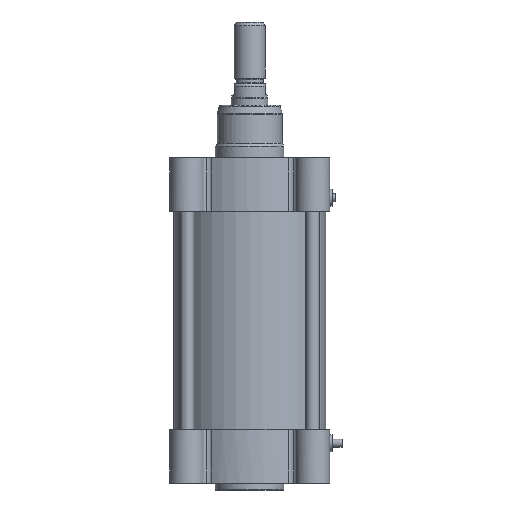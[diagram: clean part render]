
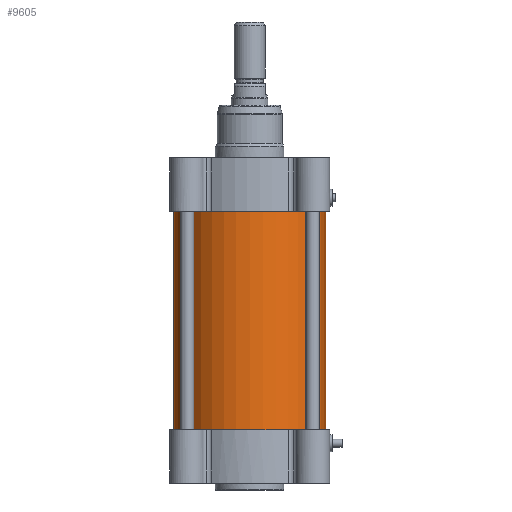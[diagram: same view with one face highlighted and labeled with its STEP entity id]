
A CAD part, front view. The second image highlights one B-rep face of the part: STEP entity #9605.
In plain terms, the highlighted cylindrical face has radius 66.5 mm (diameter 133 mm), a partial arc.
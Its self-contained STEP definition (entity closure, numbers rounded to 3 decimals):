
#1821 = CIRCLE ( 'NONE', #28500, 66.5 ) ;
#2017 = CARTESIAN_POINT ( 'NONE',  ( 66.5, 0., 191. ) ) ;
#2673 = EDGE_CURVE ( 'NONE', #7789, #10453, #21560, .T. ) ;
#5037 = DIRECTION ( 'NONE',  ( 0., 0., 1. ) ) ;
#7533 = DIRECTION ( 'NONE',  ( 0., 0., -1. ) ) ;
#7789 = VERTEX_POINT ( 'NONE', #12311 ) ;
#8757 = DIRECTION ( 'NONE',  ( 0., 0., 1. ) ) ;
#8763 = VERTEX_POINT ( 'NONE', #2017 ) ;
#9605 = ADVANCED_FACE ( 'NONE', ( #33659 ), #28203, .T. ) ;
#9840 = ORIENTED_EDGE ( 'NONE', *, *, #23041, .T. ) ;
#10453 = VERTEX_POINT ( 'NONE', #21980 ) ;
#10491 = CARTESIAN_POINT ( 'NONE',  ( -66.5, 0., 0. ) ) ;
#10734 = AXIS2_PLACEMENT_3D ( 'NONE', #26399, #31865, #23482 ) ;
#11275 = VERTEX_POINT ( 'NONE', #30981 ) ;
#12311 = CARTESIAN_POINT ( 'NONE',  ( -66.5, 0., 0. ) ) ;
#13945 = ORIENTED_EDGE ( 'NONE', *, *, #2673, .F. ) ;
#14815 = VECTOR ( 'NONE', #33743, 1000. ) ;
#15594 = ORIENTED_EDGE ( 'NONE', *, *, #23683, .T. ) ;
#17004 = CARTESIAN_POINT ( 'NONE',  ( 66.5, 0., 0. ) ) ;
#18601 = DIRECTION ( 'NONE',  ( -1., 0., 0. ) ) ;
#19402 = EDGE_CURVE ( 'NONE', #11275, #7789, #1821, .T. ) ;
#19463 = DIRECTION ( 'NONE',  ( -1., 0., 0. ) ) ;
#21560 = LINE ( 'NONE', #10491, #27590 ) ;
#21869 = AXIS2_PLACEMENT_3D ( 'NONE', #34003, #8757, #19463 ) ;
#21980 = CARTESIAN_POINT ( 'NONE',  ( -66.5, 0., 191. ) ) ;
#22653 = LINE ( 'NONE', #17004, #14815 ) ;
#23041 = EDGE_CURVE ( 'NONE', #8763, #10453, #29319, .T. ) ;
#23482 = DIRECTION ( 'NONE',  ( -1., 0., 0. ) ) ;
#23683 = EDGE_CURVE ( 'NONE', #11275, #8763, #22653, .T. ) ;
#24981 = EDGE_LOOP ( 'NONE', ( #35849, #15594, #9840, #13945 ) ) ;
#26399 = CARTESIAN_POINT ( 'NONE',  ( 0., 0., 191. ) ) ;
#27590 = VECTOR ( 'NONE', #5037, 1000. ) ;
#28203 = CYLINDRICAL_SURFACE ( 'NONE', #21869, 66.5 ) ;
#28500 = AXIS2_PLACEMENT_3D ( 'NONE', #32796, #7533, #18601 ) ;
#29319 = CIRCLE ( 'NONE', #10734, 66.5 ) ;
#30981 = CARTESIAN_POINT ( 'NONE',  ( 66.5, 0., 0. ) ) ;
#31865 = DIRECTION ( 'NONE',  ( 0., 0., -1. ) ) ;
#32796 = CARTESIAN_POINT ( 'NONE',  ( 0., 0., 0. ) ) ;
#33659 = FACE_OUTER_BOUND ( 'NONE', #24981, .T. ) ;
#33743 = DIRECTION ( 'NONE',  ( 0., 0., 1. ) ) ;
#34003 = CARTESIAN_POINT ( 'NONE',  ( 0., 0., 0. ) ) ;
#35849 = ORIENTED_EDGE ( 'NONE', *, *, #19402, .F. ) ;
